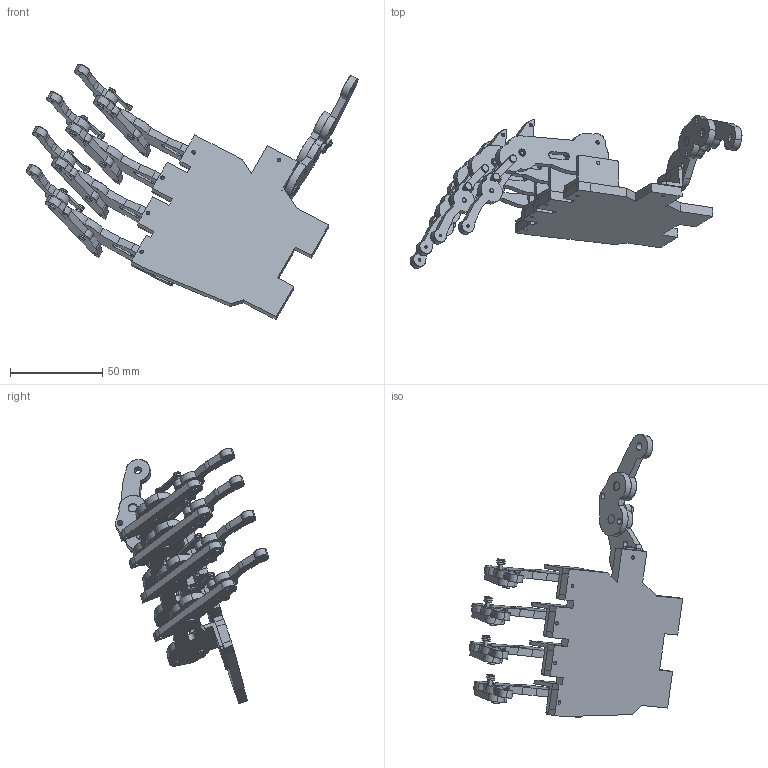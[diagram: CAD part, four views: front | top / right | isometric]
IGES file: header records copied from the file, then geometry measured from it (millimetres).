
Start section: SolidWorks IGES file using analytic representation for surfaces
Global section: file name: C:\Users\PIIM\Documents\Clases\netza\Ensamble-Mano.IGS; native system: SolidWorks 2019; preprocessor: SolidWorks 2019; author: PIIM; date: 190724.043058; units: centimetre
Bounding box: 180.16 x 83.04 x 138.63 mm (x, y, z)
Surface area: 54702.6 mm2 (no closed solid volume)
Topology: 0 solids, 0 shells, 721 faces, 13374 edges, 13374 vertices
Faces by surface type: revolution 397, bspline 324
